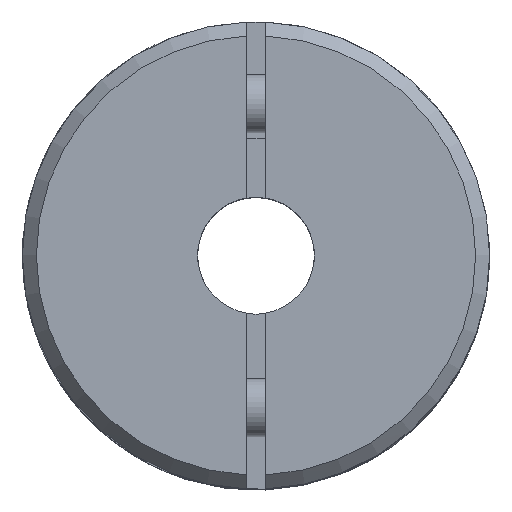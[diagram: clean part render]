
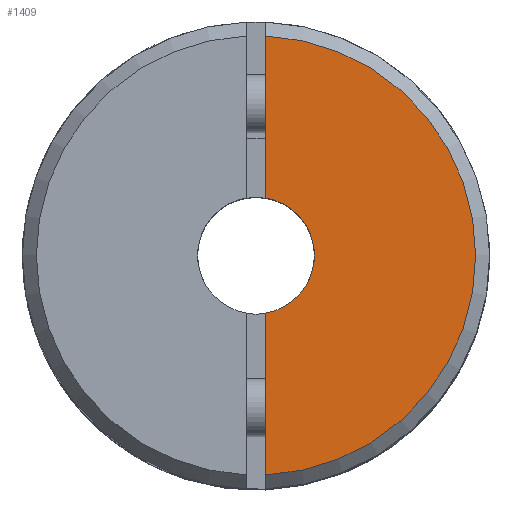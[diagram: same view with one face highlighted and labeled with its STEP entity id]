
A CAD part, top view. The second image highlights one B-rep face of the part: STEP entity #1409.
In plain terms, the highlighted planar face has unit normal (0, 0, 1).
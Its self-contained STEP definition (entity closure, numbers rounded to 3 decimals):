
#23 = EDGE_LOOP ( 'NONE', ( #663, #650, #3750, #2385 ) ) ;
#365 = CARTESIAN_POINT ( 'NONE',  ( 0., 2.5, 13. ) ) ;
#380 = PLANE ( 'NONE',  #1058 ) ;
#470 = LINE ( 'NONE', #1457, #4181 ) ;
#566 = LINE ( 'NONE', #1536, #1642 ) ;
#632 = CIRCLE ( 'NONE', #770, 2.5 ) ;
#650 = ORIENTED_EDGE ( 'NONE', *, *, #2627, .T. ) ;
#659 = DIRECTION ( 'NONE',  ( 0., -1., 0. ) ) ;
#663 = ORIENTED_EDGE ( 'NONE', *, *, #3974, .T. ) ;
#770 = AXIS2_PLACEMENT_3D ( 'NONE', #4357, #912, #945 ) ;
#821 = CARTESIAN_POINT ( 'NONE',  ( 0.4, -2.468, 13. ) ) ;
#912 = DIRECTION ( 'NONE',  ( 0., 0., 1. ) ) ;
#945 = DIRECTION ( 'NONE',  ( 0., -1., 0. ) ) ;
#1058 = AXIS2_PLACEMENT_3D ( 'NONE', #365, #1747, #3155 ) ;
#1262 = CARTESIAN_POINT ( 'NONE',  ( 0.4, 9.391, 13. ) ) ;
#1409 = ADVANCED_FACE ( 'NONE', ( #3462 ), #380, .F. ) ;
#1449 = VERTEX_POINT ( 'NONE', #2408 ) ;
#1457 = CARTESIAN_POINT ( 'NONE',  ( 0.4, 15., 13. ) ) ;
#1499 = AXIS2_PLACEMENT_3D ( 'NONE', #1616, #3005, #4394 ) ;
#1536 = CARTESIAN_POINT ( 'NONE',  ( 0.4, 15., 13. ) ) ;
#1616 = CARTESIAN_POINT ( 'NONE',  ( 0., 0., 13. ) ) ;
#1642 = VECTOR ( 'NONE', #659, 1000. ) ;
#1747 = DIRECTION ( 'NONE',  ( 0., 0., -1. ) ) ;
#1858 = CIRCLE ( 'NONE', #1499, 9.4 ) ;
#2119 = EDGE_CURVE ( 'NONE', #4319, #2689, #566, .T. ) ;
#2385 = ORIENTED_EDGE ( 'NONE', *, *, #2389, .F. ) ;
#2389 = EDGE_CURVE ( 'NONE', #2843, #2689, #632, .T. ) ;
#2408 = CARTESIAN_POINT ( 'NONE',  ( 0.4, -9.391, 13. ) ) ;
#2627 = EDGE_CURVE ( 'NONE', #1449, #4319, #1858, .T. ) ;
#2689 = VERTEX_POINT ( 'NONE', #3850 ) ;
#2843 = VERTEX_POINT ( 'NONE', #821 ) ;
#3005 = DIRECTION ( 'NONE',  ( 0., 0., 1. ) ) ;
#3155 = DIRECTION ( 'NONE',  ( 0., 1., 0. ) ) ;
#3462 = FACE_OUTER_BOUND ( 'NONE', #23, .T. ) ;
#3750 = ORIENTED_EDGE ( 'NONE', *, *, #2119, .T. ) ;
#3850 = CARTESIAN_POINT ( 'NONE',  ( 0.4, 2.468, 13. ) ) ;
#3974 = EDGE_CURVE ( 'NONE', #2843, #1449, #470, .T. ) ;
#4181 = VECTOR ( 'NONE', #4286, 1000. ) ;
#4286 = DIRECTION ( 'NONE',  ( 0., -1., 0. ) ) ;
#4319 = VERTEX_POINT ( 'NONE', #1262 ) ;
#4357 = CARTESIAN_POINT ( 'NONE',  ( 0., 0., 13. ) ) ;
#4394 = DIRECTION ( 'NONE',  ( 0., 1., 0. ) ) ;
